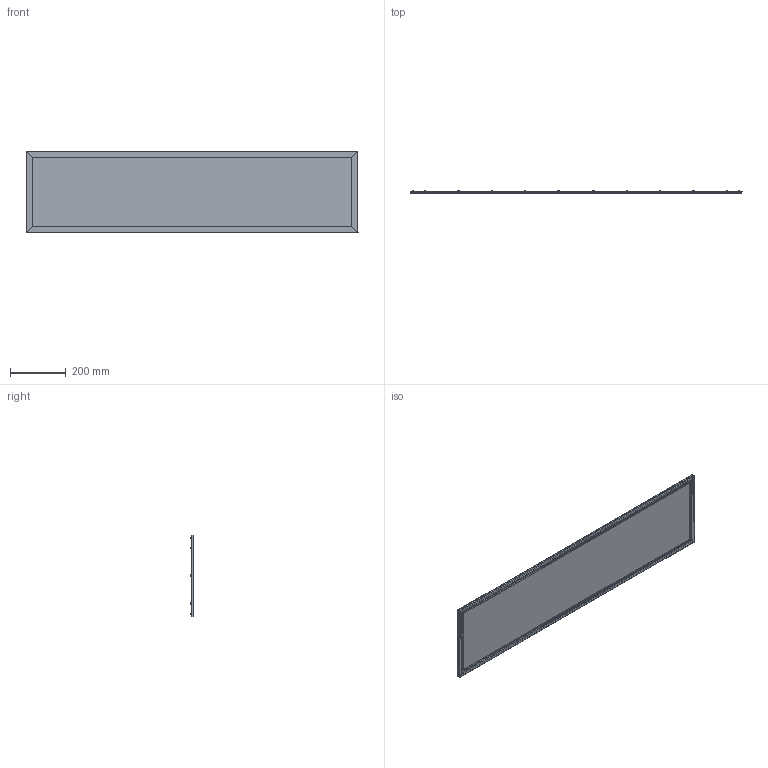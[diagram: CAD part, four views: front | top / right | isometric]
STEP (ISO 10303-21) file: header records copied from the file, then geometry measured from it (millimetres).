
FILE_DESCRIPTION(/* description */ (''),/* implementation_level */ '2;1');
FILE_NAME(/* name */ '3D-295x1195.stp',/* time_stamp */ '2021-04-14T14:06:44+08:00',/* author */ (''),/* organization */ (''),/* preprocessor_version */ 'ST-DEVELOPER v16',/* originating_system */ 'SIEMENS PLM Software NX 10.0',/* authorisation */ '');
FILE_SCHEMA (('AUTOMOTIVE_DESIGN { 1 0 10303 214 3 1 1 1 }'));
Length unit declared in the file: millimetre
Products named in the file (1): LED PANEL RC 40W 295x1195 SYLVANIA
Bounding box: 1195 x 9.05 x 295 mm (x, y, z)
Volume: 1656473.3 mm3; surface area: 3411917.8 mm2
Topology: 35 solids, 35 shells, 991 faces, 2708 edges, 1788 vertices
Faces by surface type: plane 755, cylinder 132, torus 52, sphere 26, cone 26
Full cylindrical faces by diameter (mm): 2.9 x26, 5.6 x26
Entity records: 30050 total; most frequent: DIRECTION 5268, CARTESIAN_POINT 5150, ORIENTED_EDGE 4896, EDGE_CURVE 2448, AXIS2_PLACEMENT_3D 1828, VERTEX_POINT 1710, LINE 1612, VECTOR 1612
